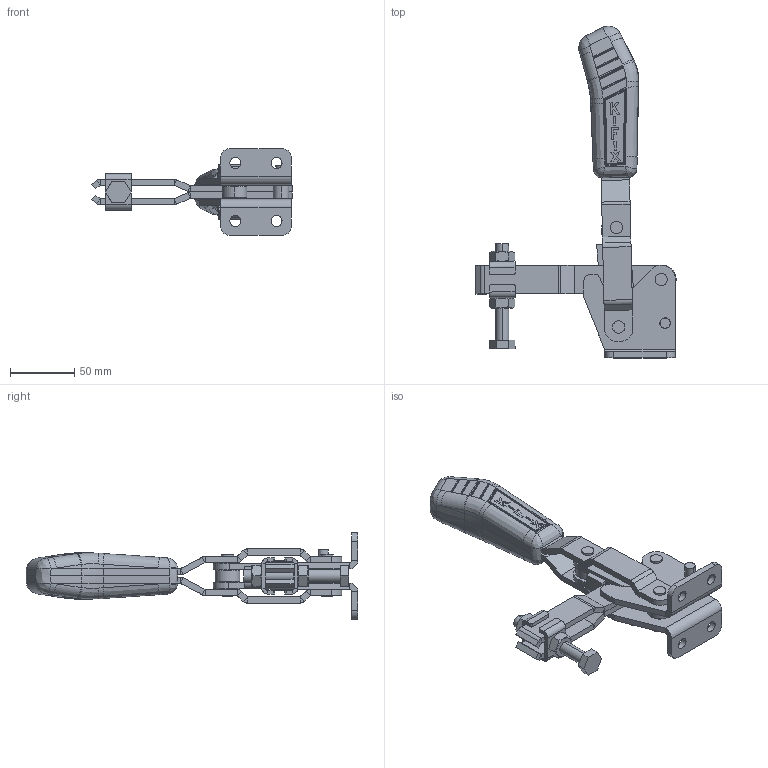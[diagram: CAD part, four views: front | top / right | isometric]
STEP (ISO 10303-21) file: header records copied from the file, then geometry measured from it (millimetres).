
FILE_DESCRIPTION (( 'STEP AP203' ), '1' );
FILE_NAME ('KF-111 DB.STEP', '2014-07-28T18:51:28', ( 'Ricardo' ), ( '' ), 'SwSTEP 2.0', 'SolidWorks 2013', '' );
FILE_SCHEMA (( 'CONFIG_CONTROL_DESIGN' ));
Length unit declared in the file: millimetre
Products named in the file (15): 01.10014; 06.50010; 14.10002; 11.50003; 12.50004; 04.10003A_Direita; 07.60003; 04.10003B_Direita; KF-111 DB; 02.12010_Direita; 04.20003; 02.12010_Esquerda; 05.20006; 03.13006; 06.50009
Assembly tree (21 placements, depth 2):
  KF-111 DB
    02.12010_Direita
    02.12010_Esquerda
    03.13006  x2
    01.10014  x2
    04.10003A_Direita
    04.10003B_Direita
    04.20003
    05.20006  x2
    06.50009  x2
    06.50010  x2
    14.10002  x2
    11.50003  x2
    12.50004
    07.60003
Bounding box: 155.41 x 257.61 x 67 mm (x, y, z)
Volume: 260851.3 mm3; surface area: 107689.8 mm2
Topology: 21 solids, 21 shells, 873 faces, 2091 edges, 1271 vertices
Faces by surface type: plane 373, cylinder 268, bspline 145, sphere 48, cone 36, torus 3
Entity records: 25828 total; most frequent: CARTESIAN_POINT 8951, ORIENTED_EDGE 3392, DIRECTION 2763, EDGE_CURVE 1696, AXIS2_PLACEMENT_3D 1057, VERTEX_POINT 1051, EDGE_LOOP 771, FACE_OUTER_BOUND 700
